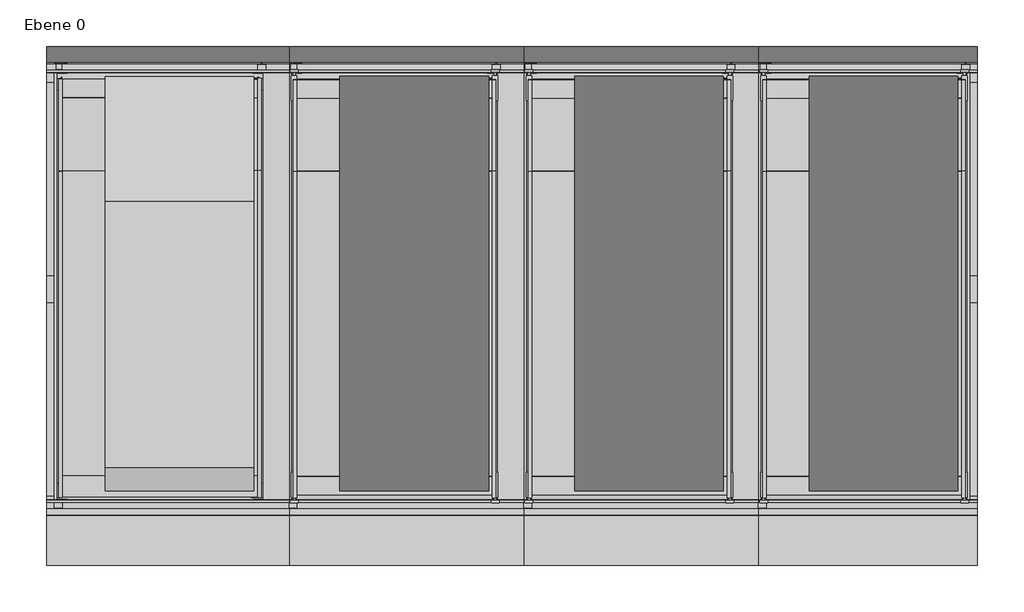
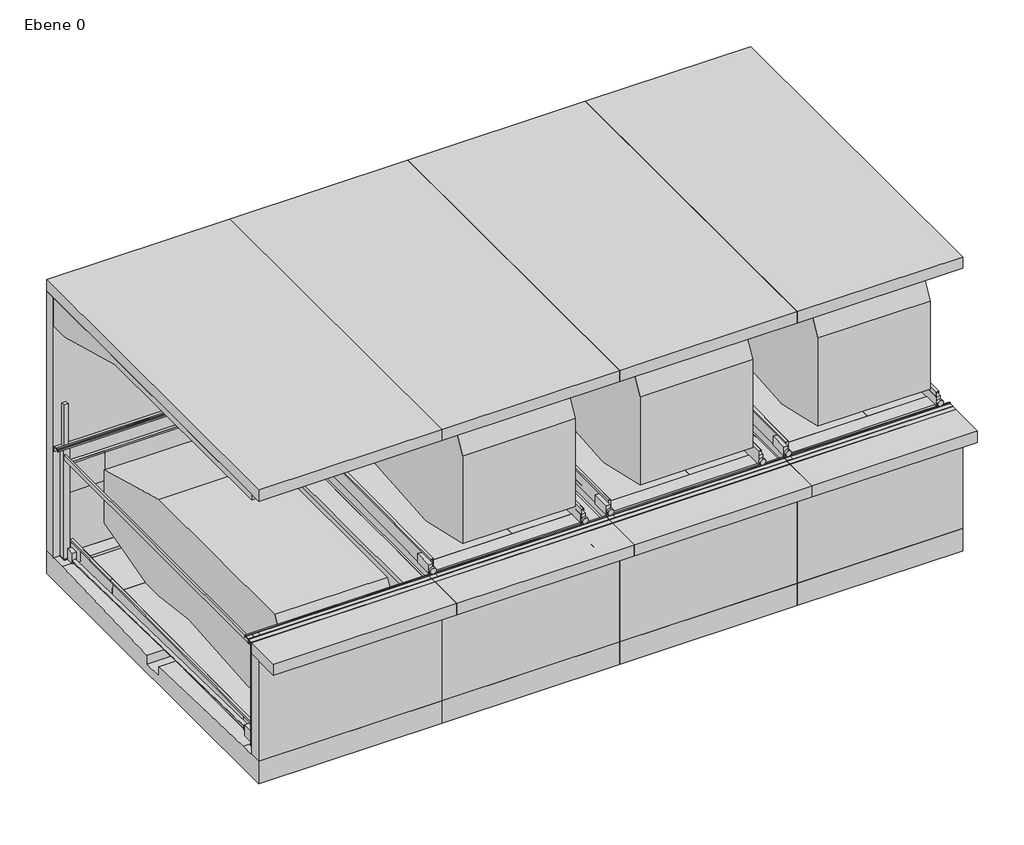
# One storey: 4 proxies.
"""IFC4 building model written with IfcOpenShell, lengths in millimetres."""

from ifc_helpers import new_model, si_unit, origin, place, context, project, spatial, transform, mapped, element, save
from components import generic_models_6560fc60, generic_models_f6fa3816, generic_models_0f1672eb

model = new_model("IFC4")

# Units and contexts
model_context = context("Model", 3, world=origin())
ifc_project = project(units=[si_unit("LENGTHUNIT", "METRE", prefix="MILLI")], contexts=[model_context])

# Site, building, storey
site = spatial("IfcSite", under=ifc_project)
building = spatial("IfcBuilding", under=site)
storey = spatial("IfcBuildingStorey", under=building, Name="Ebene 0", Elevation=0.0)

# Proxies
placement = place(None, origin())
generic_models_shape = generic_models_6560fc60(model_context)
element("IfcBuildingElementProxy", 1, Name="TrendVario_6100 : TrendVario_6100", ObjectType="TrendVario_6100 : TrendVario_6100", at=placement, inside=storey, context=model_context, shape_type="MappedRepresentation", body=[
    mapped(generic_models_shape, transform((-9581.9945504, -3763.1777406, 0.0), x_axis=(1.0, 0.0, 0.0), y_axis=(0.0, 1.0, 0.0), z_axis=(0.0, 0.0, 1.0))),
])
generic_models_2_shape = generic_models_f6fa3816(model_context)
element("IfcBuildingElementProxy", 2, Name="TrendVario_6100 : TrendVario_6100", ObjectType="TrendVario_6100 : TrendVario_6100", at=placement, inside=storey, context=model_context, shape_type="MappedRepresentation", body=[
    mapped(generic_models_2_shape, transform((-6582.9945504, -3763.1777406, 0.0), x_axis=(1.0, 0.0, 0.0), y_axis=(0.0, 1.0, 0.0), z_axis=(0.0, 0.0, 1.0))),
])
element("IfcBuildingElementProxy", 3, Name="TrendVario_6100 : TrendVario_6100", ObjectType="TrendVario_6100 : TrendVario_6100", at=placement, inside=storey, context=model_context, shape_type="MappedRepresentation", body=[
    mapped(generic_models_2_shape, transform((-3582.9945504, -3763.1777406, 0.0), x_axis=(1.0, 0.0, 0.0), y_axis=(0.0, 1.0, 0.0), z_axis=(0.0, 0.0, 1.0))),
])
generic_models_3_shape = generic_models_0f1672eb(model_context)
element("IfcBuildingElementProxy", 4, Name="TrendVario_6100 : TrendVario_6100", ObjectType="TrendVario_6100 : TrendVario_6100", at=placement, inside=storey, context=model_context, shape_type="MappedRepresentation", body=[
    mapped(generic_models_3_shape, transform((-582.9945504, -3763.1777406, 0.0), x_axis=(1.0, 0.0, 0.0), y_axis=(0.0, 1.0, 0.0), z_axis=(0.0, 0.0, 1.0))),
])

save(model, "model.ifc")
